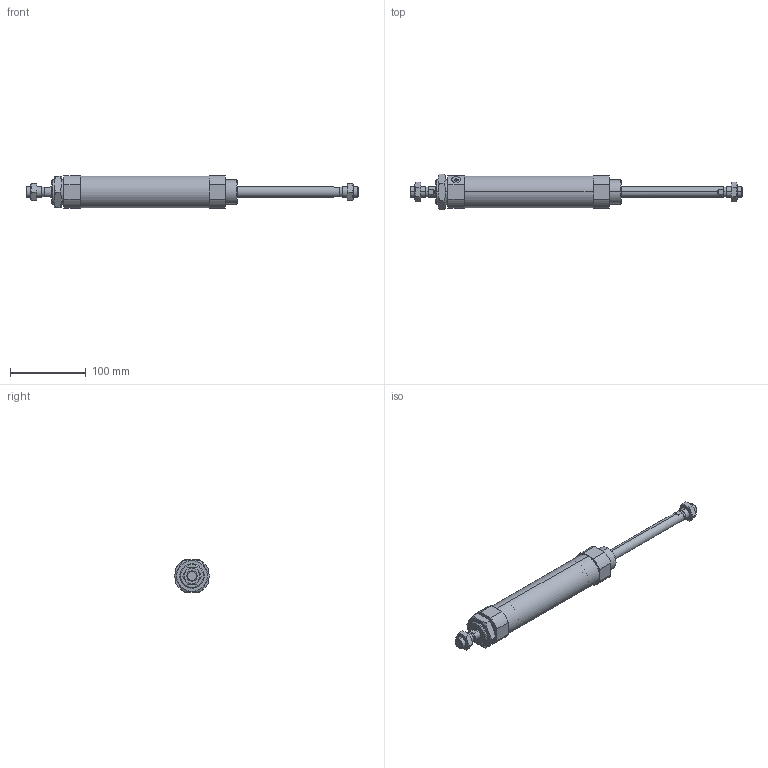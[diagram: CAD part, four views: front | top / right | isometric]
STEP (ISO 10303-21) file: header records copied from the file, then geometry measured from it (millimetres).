
FILE_DESCRIPTION (( 'STEP AP203' ), '1' );
FILE_NAME ('CSM2B40-125-P.STEP', '2020-07-20T16:51:19', ( '' ), ( '' ), 'SwSTEP 2.0', 'SolidWorks 2019', '' );
FILE_SCHEMA (( 'CONFIG_CONTROL_DESIGN' ));
Length unit declared in the file: millimetre
Products named in the file (1): CSM2B40-125-P
Bounding box: 438 x 47.34 x 42.5 mm (x, y, z)
Volume: 230417.2 mm3; surface area: 88104.3 mm2
Topology: 5 solids, 5 shells, 155 faces, 362 edges, 227 vertices
Faces by surface type: plane 63, cylinder 48, cone 44
Entity records: 5729 total; most frequent: CARTESIAN_POINT 2109, DIRECTION 750, ORIENTED_EDGE 720, EDGE_CURVE 360, AXIS2_PLACEMENT_3D 296, VERTEX_POINT 227, EDGE_LOOP 179, LINE 158
